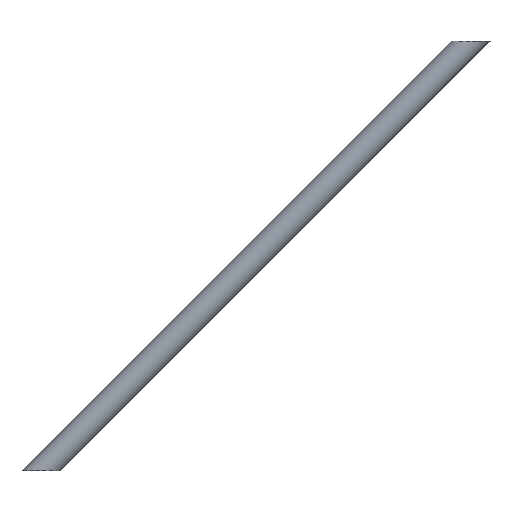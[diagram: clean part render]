
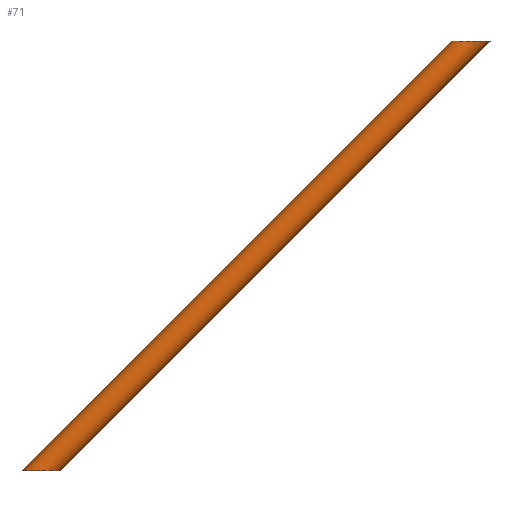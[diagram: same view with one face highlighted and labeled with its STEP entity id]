
A CAD part, front view. The second image highlights one B-rep face of the part: STEP entity #71.
In plain terms, the highlighted cylindrical face has radius 5 mm (diameter 10 mm), a full revolution.
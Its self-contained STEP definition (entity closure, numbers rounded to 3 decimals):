
#14=FACE_BOUND('',#26,.T.);
#15=CYLINDRICAL_SURFACE('',#94,5.);
#20=FACE_OUTER_BOUND('',#25,.T.);
#25=EDGE_LOOP('',(#53,#54));
#26=EDGE_LOOP('',(#55,#56));
#27=ELLIPSE('',#87,7.071,5.);
#28=ELLIPSE('',#89,7.071,5.);
#29=ELLIPSE('',#91,7.071,5.);
#30=ELLIPSE('',#93,7.071,5.);
#35=VERTEX_POINT('',#119);
#36=VERTEX_POINT('',#120);
#37=VERTEX_POINT('',#124);
#38=VERTEX_POINT('',#125);
#40=EDGE_CURVE('',#36,#35,#27,.T.);
#42=EDGE_CURVE('',#38,#37,#28,.T.);
#43=EDGE_CURVE('',#35,#36,#29,.T.);
#44=EDGE_CURVE('',#37,#38,#30,.T.);
#53=ORIENTED_EDGE('',*,*,#43,.T.);
#54=ORIENTED_EDGE('',*,*,#40,.T.);
#55=ORIENTED_EDGE('',*,*,#42,.T.);
#56=ORIENTED_EDGE('',*,*,#44,.T.);
#71=ADVANCED_FACE('',(#20,#14),#15,.T.);
#87=AXIS2_PLACEMENT_3D('',#122,#100,#101);
#89=AXIS2_PLACEMENT_3D('',#127,#105,#106);
#91=AXIS2_PLACEMENT_3D('',#129,#109,#110);
#93=AXIS2_PLACEMENT_3D('',#131,#113,#114);
#94=AXIS2_PLACEMENT_3D('',#132,#115,#116);
#100=DIRECTION('center_axis',(0.,0.,
-1.));
#101=DIRECTION('ref_axis',(-1.,0.,0.));
#105=DIRECTION('center_axis',(0.,0.,
1.));
#106=DIRECTION('ref_axis',(-1.,0.,0.));
#109=DIRECTION('center_axis',(0.,0.,
-1.));
#110=DIRECTION('ref_axis',(-1.,0.,0.));
#113=DIRECTION('center_axis',(0.,0.,
1.));
#114=DIRECTION('ref_axis',(-1.,0.,0.));
#115=DIRECTION('center_axis',(-0.707,0.,-0.707));
#116=DIRECTION('ref_axis',(-0.707,0.,0.707));
#119=CARTESIAN_POINT('',(240.714,0.,-16.));
#120=CARTESIAN_POINT('',(226.572,0.,-16.));
#122=CARTESIAN_POINT('Origin',(233.643,0.,-16.));
#124=CARTESIAN_POINT('',(82.714,0.,-174.));
#125=CARTESIAN_POINT('',(68.572,0.,-174.));
#127=CARTESIAN_POINT('Origin',(75.643,0.,-174.));
#129=CARTESIAN_POINT('Origin',(233.643,0.,-16.));
#131=CARTESIAN_POINT('Origin',(75.643,0.,-174.));
#132=CARTESIAN_POINT('Origin',(154.643,0.,-95.));
